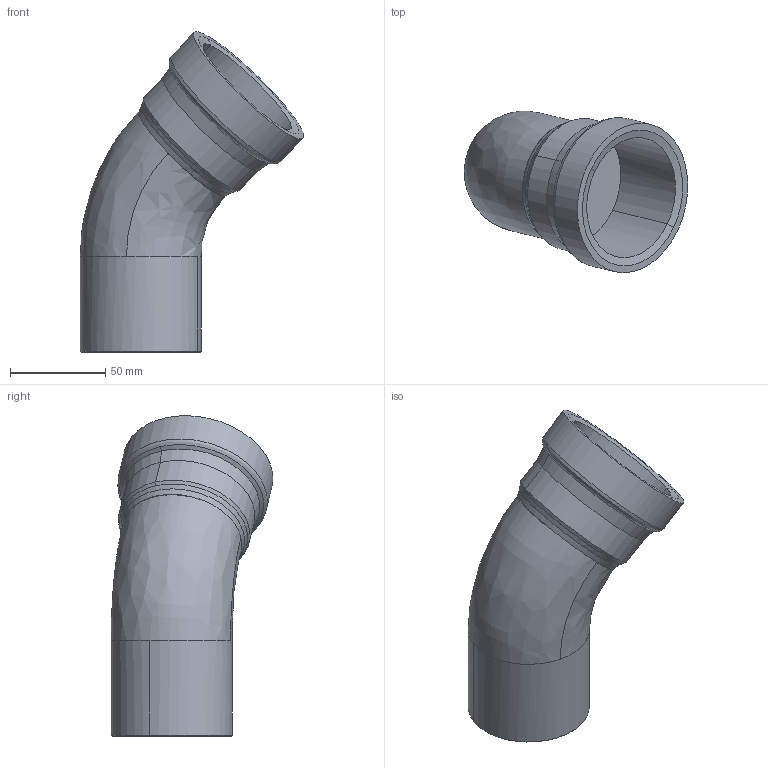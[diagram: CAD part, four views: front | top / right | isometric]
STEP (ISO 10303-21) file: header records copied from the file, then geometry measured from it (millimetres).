
FILE_DESCRIPTION(('STEP AP214'),'1');
FILE_NAME('pim0004557.stp','2015-04-30T15:36:06',('Cad-Pim'),('TransMagic, Inc.'),'TMR11sp0','TransMagic R11',' ');
FILE_SCHEMA(('AUTOMOTIVE_DESIGN'));
Length unit declared in the file: millimetre
Products named in the file (1): pim0004557
Bounding box: 117.07 x 84.73 x 167.88 mm (x, y, z)
Volume: 425046.2 mm3; surface area: 50695.7 mm2
Topology: 1 solids, 1 shells, 28 faces, 81 edges, 56 vertices
Faces by surface type: bspline 10, cone 10, cylinder 8
Entity records: 1632 total; most frequent: CARTESIAN_POINT 761, ORIENTED_EDGE 162, DIRECTION 106, EDGE_CURVE 81, VERTEX_POINT 56, AXIS2_PLACEMENT_3D 44, STYLED_ITEM 29, PRESENTATION_STYLE_ASSIGNMENT 29
